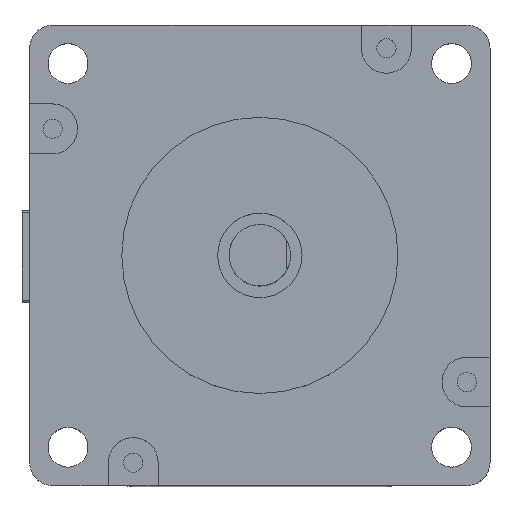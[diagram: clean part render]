
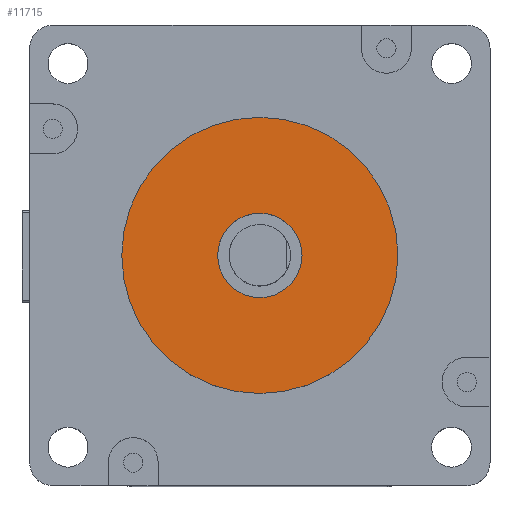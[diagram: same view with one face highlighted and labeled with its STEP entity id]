
A CAD part, top view. The second image highlights one B-rep face of the part: STEP entity #11715.
In plain terms, the highlighted planar face has unit normal (0, 0, 1).
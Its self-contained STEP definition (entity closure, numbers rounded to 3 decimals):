
#4882=CARTESIAN_POINT('',(30.,30.,87.6));
#4883=DIRECTION('',(0.,0.,-1.));
#4884=DIRECTION('',(-1.,0.,0.));
#4885=AXIS2_PLACEMENT_3D('',#4882,#4883,#4884);
#4887=CARTESIAN_POINT('',(30.,30.,87.6));
#4888=DIRECTION('',(0.,0.,-1.));
#4889=DIRECTION('',(1.,0.,0.));
#4890=AXIS2_PLACEMENT_3D('',#4887,#4888,#4889);
#4892=CARTESIAN_POINT('',(30.,30.,87.6));
#4893=DIRECTION('',(0.,0.,1.));
#4894=DIRECTION('',(-1.,0.,0.));
#4895=AXIS2_PLACEMENT_3D('',#4892,#4893,#4894);
#4897=CARTESIAN_POINT('',(30.,30.,87.6));
#4898=DIRECTION('',(0.,0.,1.));
#4899=DIRECTION('',(1.,0.,0.));
#4900=AXIS2_PLACEMENT_3D('',#4897,#4898,#4899);
#5687=CARTESIAN_POINT('',(12.,30.,87.6));
#5688=CARTESIAN_POINT('',(48.,30.,87.6));
#5689=VERTEX_POINT('',#5687);
#5690=VERTEX_POINT('',#5688);
#5691=CARTESIAN_POINT('',(24.5,30.,87.6));
#5692=CARTESIAN_POINT('',(35.5,30.,87.6));
#5693=VERTEX_POINT('',#5691);
#5694=VERTEX_POINT('',#5692);
#11699=CARTESIAN_POINT('',(30.,30.,87.6));
#11700=DIRECTION('',(0.,0.,1.));
#11701=DIRECTION('',(1.,0.,0.));
#11702=AXIS2_PLACEMENT_3D('',#11699,#11700,#11701);
#11703=PLANE('',#11702);
#11704=ORIENTED_EDGE('',*,*,#11689,.T.);
#11706=ORIENTED_EDGE('',*,*,#11705,.T.);
#11707=EDGE_LOOP('',(#11704,#11706));
#11708=FACE_OUTER_BOUND('',#11707,.F.);
#11710=ORIENTED_EDGE('',*,*,#11709,.T.);
#11712=ORIENTED_EDGE('',*,*,#11711,.T.);
#11713=EDGE_LOOP('',(#11710,#11712));
#11714=FACE_BOUND('',#11713,.F.);
#11715=ADVANCED_FACE('',(#11708,#11714),#11703,.T.);
#4886=CIRCLE('',#4885,18.);
#4891=CIRCLE('',#4890,18.);
#4896=CIRCLE('',#4895,5.5);
#4901=CIRCLE('',#4900,5.5);
#11689=EDGE_CURVE('',#5689,#5690,#4886,.T.);
#11705=EDGE_CURVE('',#5690,#5689,#4891,.T.);
#11709=EDGE_CURVE('',#5693,#5694,#4896,.T.);
#11711=EDGE_CURVE('',#5694,#5693,#4901,.T.);
